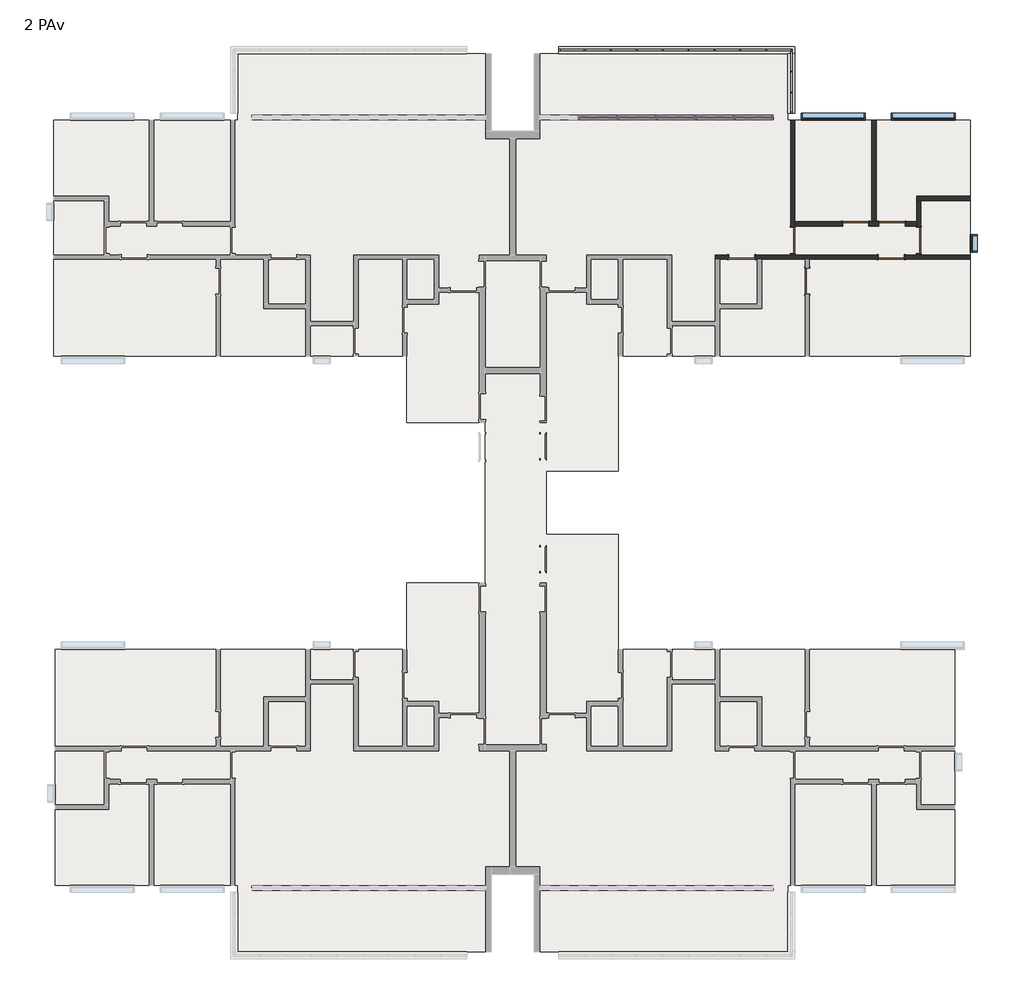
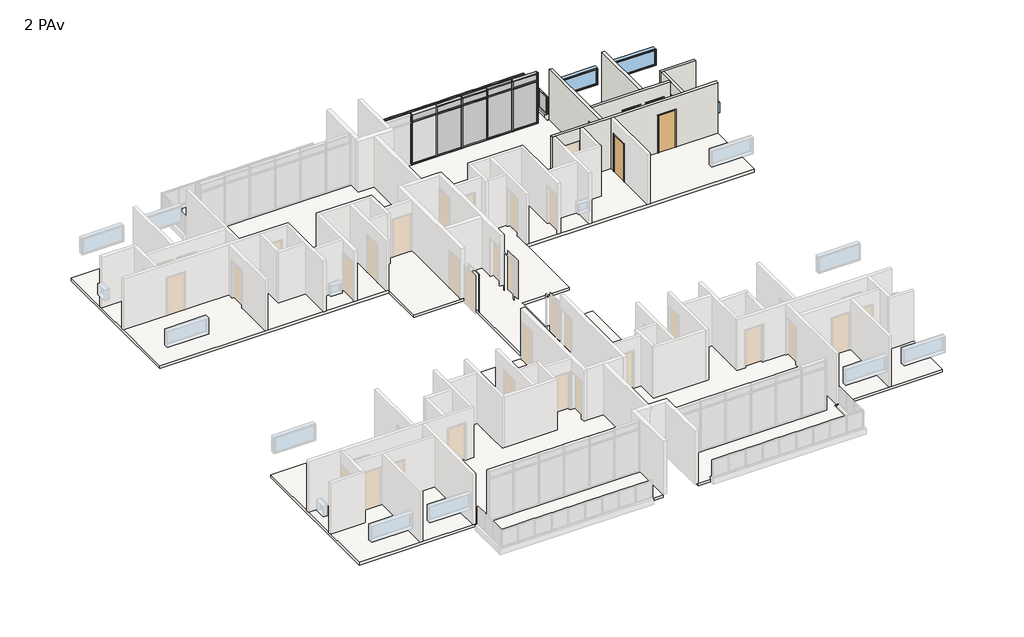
# One storey, part 6 of 6: 64 members, 21 plates, 8 walls, 6 doors, 3 windows, 1 slab.
"""IFC4 building model written with IfcOpenShell, lengths in millimetres."""

from ifc_helpers import new_model, si_unit, frame, origin, place, context, project, spatial, polyline, outline, extrude, faceted_brep, transform, mapped, element, save
from components import door_90_x_210_ee935524, door_90_x_210_565370b3, montante_retangular_50_mm_quadrado_84e40a56, montante_retangular_50_mm_quadrado_3d152aff, montante_retangular_50_mm_quadrado_a01005a4, montante_retangular_50_mm_quadrado_ddd80bd7, montante_retangular_50_mm_quadrado_4acded50, montante_retangular_50_mm_quadrado_237d7072, montante_retangular_50_x_150_mm_6217edde, montante_retangular_50_x_150_mm_a22249d7, montante_retangular_50_x_150_mm_6225e4e3, montante_retangular_50_x_150_mm_0a8c3443, montante_retangular_50_x_150_mm_567eccab, montante_retangular_50_x_150_mm_1ca2bba2, montante_retangular_50_x_150_mm_6abf4531, montante_retangular_50_x_150_mm_662c37b1, painel_do_sistema_0196877a, painel_do_sistema_2aa81470, painel_do_sistema_57ceaf50, painel_do_sistema_ab0ed719, painel_do_sistema_1ecb5f42, painel_do_sistema_49db1829, painel_do_sistema_5ea5287b, painel_do_sistema_7730abee, window_0610_x_0610_mm_b5667cc9, window_220_x_90_cea65aae

model = new_model("IFC4")

# Units and contexts
model_context = context("Model", 3, world=origin())
ifc_project = project(units=[si_unit("LENGTHUNIT", "METRE", prefix="MILLI")], contexts=[model_context])

# Site, building, storey
site = spatial("IfcSite", under=ifc_project)
building = spatial("IfcBuilding", under=site)
storey = spatial("IfcBuildingStorey", under=building, Name="2 PAv", Elevation=6000.0)

# Doors
placement = place(None, origin())
door_90_x_210_shape = door_90_x_210_ee935524(model_context)
element("IfcDoor", 1, ObjectType="M_Descarga simples : 90 x 210", at=placement, inside=storey, context=model_context, shape_type="MappedRepresentation", body=[
    mapped(door_90_x_210_shape, transform((9138.7734258, 8433.6614625, 6000.0), x_axis=(0.0, 1.0, 0.0), y_axis=(-1.0, 0.0, 0.0), z_axis=(0.0, 0.0, 1.0))),
])
element("IfcDoor", 2, ObjectType="M_Descarga simples : 90 x 210", at=placement, inside=storey, context=model_context, shape_type="MappedRepresentation", body=[
    mapped(door_90_x_210_shape, transform((8638.7734258, 9833.6614625, 6000.0), x_axis=(0.0, -1.0, 0.0), y_axis=(1.0, 0.0, 0.0), z_axis=(0.0, 0.0, 1.0))),
])
element("IfcDoor", 3, ObjectType="M_Descarga simples : 90 x 210", at=placement, inside=storey, context=model_context, shape_type="MappedRepresentation", body=[
    mapped(door_90_x_210_shape, transform((12988.7734258, 9833.6614625, 6000.0), x_axis=(0.0, -1.0, 0.0), y_axis=(1.0, 0.0, 0.0), z_axis=(0.0, 0.0, 1.0))),
])
element("IfcDoor", 4, ObjectType="M_Descarga simples : 90 x 210", at=placement, inside=storey, context=model_context, shape_type="MappedRepresentation", body=[
    mapped(door_90_x_210_shape, transform((10813.7734258, 10408.6614625, 6000.0), x_axis=(1.0, 0.0, 0.0), y_axis=(0.0, 1.0, 0.0), z_axis=(0.0, 0.0, 1.0))),
])
door_90_x_210_2_shape = door_90_x_210_565370b3(model_context)
element("IfcDoor", 5, ObjectType="M_Descarga simples : 90 x 210", at=placement, inside=storey, context=model_context, shape_type="MappedRepresentation", body=[
    mapped(door_90_x_210_2_shape, transform((12063.7734258, 10408.6614625, 6000.0), x_axis=(-1.0, 0.0, 0.0), y_axis=(0.0, -1.0, 0.0), z_axis=(0.0, 0.0, 1.0))),
])
element("IfcDoor", 6, ObjectType="M_Descarga simples : 90 x 210", at=placement, inside=storey, context=model_context, shape_type="MappedRepresentation", body=[
    mapped(door_90_x_210_2_shape, transform((12043.7734258, 9258.6614625, 6000.0), x_axis=(1.0, 0.0, 0.0), y_axis=(0.0, 1.0, 0.0), z_axis=(0.0, 0.0, 1.0))),
])

# Members
montante_retangular_50_mm_quadrado_shape = montante_retangular_50_mm_quadrado_84e40a56(model_context)
element("IfcMember", 7, ObjectType="Montante retangular : 50 mm Quadrado", at=placement, inside=storey, context=model_context, shape_type="MappedRepresentation", body=[
    mapped(montante_retangular_50_mm_quadrado_shape, transform((8588.7734258, 15663.6614625, 6150.0), x_axis=(0.0, -1.0, 0.0), y_axis=(-1.0, 0.0, 0.0), z_axis=(0.0, 0.0, -1.0))),
])
element("IfcMember", 8, ObjectType="Montante retangular : 50 mm Quadrado", at=placement, inside=storey, context=model_context, shape_type="MappedRepresentation", body=[
    mapped(montante_retangular_50_mm_quadrado_shape, transform((8588.7734258, 14948.6614625, 6150.0), x_axis=(0.0, -1.0, 0.0), y_axis=(-1.0, 0.0, 0.0), z_axis=(0.0, 0.0, -1.0))),
])
element("IfcMember", 9, ObjectType="Montante retangular : 50 mm Quadrado", at=placement, inside=storey, context=model_context, shape_type="MappedRepresentation", body=[
    mapped(montante_retangular_50_mm_quadrado_shape, transform((1453.7734258, 16403.6614625, 6150.0), x_axis=(1.0, 0.0, 0.0), y_axis=(0.0, -1.0, 0.0), z_axis=(0.0, 0.0, -1.0))),
])
element("IfcMember", 10, ObjectType="Montante retangular : 50 mm Quadrado", at=placement, inside=storey, context=model_context, shape_type="MappedRepresentation", body=[
    mapped(montante_retangular_50_mm_quadrado_shape, transform((2348.7734258, 16403.6614625, 6150.0), x_axis=(1.0, 0.0, 0.0), y_axis=(0.0, -1.0, 0.0), z_axis=(0.0, 0.0, -1.0))),
])
element("IfcMember", 11, ObjectType="Montante retangular : 50 mm Quadrado", at=placement, inside=storey, context=model_context, shape_type="MappedRepresentation", body=[
    mapped(montante_retangular_50_mm_quadrado_shape, transform((3243.7734258, 16403.6614625, 6150.0), x_axis=(1.0, 0.0, 0.0), y_axis=(0.0, -1.0, 0.0), z_axis=(0.0, 0.0, -1.0))),
])
element("IfcMember", 12, ObjectType="Montante retangular : 50 mm Quadrado", at=placement, inside=storey, context=model_context, shape_type="MappedRepresentation", body=[
    mapped(montante_retangular_50_mm_quadrado_shape, transform((4138.7734258, 16403.6614625, 6150.0), x_axis=(1.0, 0.0, 0.0), y_axis=(0.0, -1.0, 0.0), z_axis=(0.0, 0.0, -1.0))),
])
element("IfcMember", 13, ObjectType="Montante retangular : 50 mm Quadrado", at=placement, inside=storey, context=model_context, shape_type="MappedRepresentation", body=[
    mapped(montante_retangular_50_mm_quadrado_shape, transform((5033.7734258, 16403.6614625, 6150.0), x_axis=(1.0, 0.0, 0.0), y_axis=(0.0, -1.0, 0.0), z_axis=(0.0, 0.0, -1.0))),
])
element("IfcMember", 14, ObjectType="Montante retangular : 50 mm Quadrado", at=placement, inside=storey, context=model_context, shape_type="MappedRepresentation", body=[
    mapped(montante_retangular_50_mm_quadrado_shape, transform((5928.7734258, 16403.6614625, 6150.0), x_axis=(1.0, 0.0, 0.0), y_axis=(0.0, -1.0, 0.0), z_axis=(0.0, 0.0, -1.0))),
])
element("IfcMember", 15, ObjectType="Montante retangular : 50 mm Quadrado", at=placement, inside=storey, context=model_context, shape_type="MappedRepresentation", body=[
    mapped(montante_retangular_50_mm_quadrado_shape, transform((6823.7734258, 16403.6614625, 6150.0), x_axis=(1.0, 0.0, 0.0), y_axis=(0.0, -1.0, 0.0), z_axis=(0.0, 0.0, -1.0))),
])
element("IfcMember", 16, ObjectType="Montante retangular : 50 mm Quadrado", at=placement, inside=storey, context=model_context, shape_type="MappedRepresentation", body=[
    mapped(montante_retangular_50_mm_quadrado_shape, transform((7718.7734258, 16403.6614625, 6150.0), x_axis=(1.0, 0.0, 0.0), y_axis=(0.0, -1.0, 0.0), z_axis=(0.0, 0.0, -1.0))),
])
montante_retangular_50_mm_quadrado_2_shape = montante_retangular_50_mm_quadrado_3d152aff(model_context)
element("IfcMember", 17, ObjectType="Montante retangular : 50 mm Quadrado", at=placement, inside=storey, context=model_context, shape_type="MappedRepresentation", body=[
    mapped(montante_retangular_50_mm_quadrado_2_shape, transform((8588.7734258, 14233.6614625, 6150.0), x_axis=(0.0, -1.0, 0.0), y_axis=(-1.0, 0.0, 0.0), z_axis=(0.0, 0.0, -1.0))),
])
element("IfcMember", 18, ObjectType="Montante retangular : 50 mm Quadrado", at=placement, inside=storey, context=model_context, shape_type="MappedRepresentation", body=[
    mapped(montante_retangular_50_mm_quadrado_2_shape, transform((8613.7734258, 16403.6614625, 6150.0), x_axis=(1.0, 0.0, 0.0), y_axis=(0.0, -1.0, 0.0), z_axis=(0.0, 0.0, -1.0))),
])
element("IfcMember", 19, ObjectType="Montante retangular : 50 mm Quadrado", at=placement, inside=storey, context=model_context, shape_type="MappedRepresentation", body=[
    mapped(montante_retangular_50_mm_quadrado_2_shape, transform((8588.7734258, 16378.6614625, 7150.0), x_axis=(0.0, 1.0, 0.0), y_axis=(-1.0, 0.0, 0.0), z_axis=(0.0, 0.0, 1.0))),
])
element("IfcMember", 20, ObjectType="Montante retangular : 50 mm Quadrado", at=placement, inside=storey, context=model_context, shape_type="MappedRepresentation", body=[
    mapped(montante_retangular_50_mm_quadrado_2_shape, transform((558.7734258, 16403.6614625, 7150.0), x_axis=(-1.0, 0.0, 0.0), y_axis=(0.0, -1.0, 0.0), z_axis=(0.0, 0.0, 1.0))),
])
montante_retangular_50_mm_quadrado_3_shape = montante_retangular_50_mm_quadrado_a01005a4(model_context)
element("IfcMember", 21, ObjectType="Montante retangular : 50 mm Quadrado", at=placement, inside=storey, context=model_context, shape_type="MappedRepresentation", body=[
    mapped(montante_retangular_50_mm_quadrado_3_shape, transform((8588.7734258, 14283.6614625, 7150.0), x_axis=(0.0, 0.0, 1.0), y_axis=(-1.0, 0.0, 0.0), z_axis=(0.0, -1.0, 0.0))),
])
element("IfcMember", 22, ObjectType="Montante retangular : 50 mm Quadrado", at=placement, inside=storey, context=model_context, shape_type="MappedRepresentation", body=[
    mapped(montante_retangular_50_mm_quadrado_3_shape, transform((8588.7734258, 15688.6614625, 7150.0), x_axis=(0.0, 0.0, 1.0), y_axis=(-1.0, 0.0, 0.0), z_axis=(0.0, -1.0, 0.0))),
])
montante_retangular_50_mm_quadrado_4_shape = montante_retangular_50_mm_quadrado_ddd80bd7(model_context)
element("IfcMember", 23, ObjectType="Montante retangular : 50 mm Quadrado", at=placement, inside=storey, context=model_context, shape_type="MappedRepresentation", body=[
    mapped(montante_retangular_50_mm_quadrado_4_shape, transform((8588.7734258, 14973.6614625, 7150.0), x_axis=(0.0, 0.0, 1.0), y_axis=(-1.0, 0.0, 0.0), z_axis=(0.0, -1.0, 0.0))),
])
element("IfcMember", 24, ObjectType="Montante retangular : 50 mm Quadrado", at=placement, inside=storey, context=model_context, shape_type="MappedRepresentation", body=[
    mapped(montante_retangular_50_mm_quadrado_3_shape, transform((8588.7734258, 16328.6614625, 6150.0), x_axis=(0.0, 0.0, -1.0), y_axis=(-1.0, 0.0, 0.0), z_axis=(0.0, 1.0, 0.0))),
])
element("IfcMember", 25, ObjectType="Montante retangular : 50 mm Quadrado", at=placement, inside=storey, context=model_context, shape_type="MappedRepresentation", body=[
    mapped(montante_retangular_50_mm_quadrado_3_shape, transform((8588.7734258, 14923.6614625, 6150.0), x_axis=(0.0, 0.0, -1.0), y_axis=(-1.0, 0.0, 0.0), z_axis=(0.0, 1.0, 0.0))),
])
element("IfcMember", 26, ObjectType="Montante retangular : 50 mm Quadrado", at=placement, inside=storey, context=model_context, shape_type="MappedRepresentation", body=[
    mapped(montante_retangular_50_mm_quadrado_4_shape, transform((8588.7734258, 15638.6614625, 6150.0), x_axis=(0.0, 0.0, -1.0), y_axis=(-1.0, 0.0, 0.0), z_axis=(0.0, 1.0, 0.0))),
])
montante_retangular_50_mm_quadrado_5_shape = montante_retangular_50_mm_quadrado_4acded50(model_context)
element("IfcMember", 27, ObjectType="Montante retangular : 50 mm Quadrado", at=placement, inside=storey, context=model_context, shape_type="MappedRepresentation", body=[
    mapped(montante_retangular_50_mm_quadrado_5_shape, transform((8563.7734258, 16403.6614625, 7150.0), x_axis=(0.0, 0.0, 1.0), y_axis=(0.0, -1.0, 0.0), z_axis=(1.0, 0.0, 0.0))),
])
element("IfcMember", 28, ObjectType="Montante retangular : 50 mm Quadrado", at=placement, inside=storey, context=model_context, shape_type="MappedRepresentation", body=[
    mapped(montante_retangular_50_mm_quadrado_5_shape, transform((1428.7734258, 16403.6614625, 7150.0), x_axis=(0.0, 0.0, 1.0), y_axis=(0.0, -1.0, 0.0), z_axis=(1.0, 0.0, 0.0))),
])
montante_retangular_50_mm_quadrado_6_shape = montante_retangular_50_mm_quadrado_237d7072(model_context)
element("IfcMember", 29, ObjectType="Montante retangular : 50 mm Quadrado", at=placement, inside=storey, context=model_context, shape_type="MappedRepresentation", body=[
    mapped(montante_retangular_50_mm_quadrado_6_shape, transform((2323.7734258, 16403.6614625, 7150.0), x_axis=(0.0, 0.0, 1.0), y_axis=(0.0, -1.0, 0.0), z_axis=(1.0, 0.0, 0.0))),
])
element("IfcMember", 30, ObjectType="Montante retangular : 50 mm Quadrado", at=placement, inside=storey, context=model_context, shape_type="MappedRepresentation", body=[
    mapped(montante_retangular_50_mm_quadrado_6_shape, transform((3218.7734258, 16403.6614625, 7150.0), x_axis=(0.0, 0.0, 1.0), y_axis=(0.0, -1.0, 0.0), z_axis=(1.0, 0.0, 0.0))),
])
element("IfcMember", 31, ObjectType="Montante retangular : 50 mm Quadrado", at=placement, inside=storey, context=model_context, shape_type="MappedRepresentation", body=[
    mapped(montante_retangular_50_mm_quadrado_6_shape, transform((4113.7734258, 16403.6614625, 7150.0), x_axis=(0.0, 0.0, 1.0), y_axis=(0.0, -1.0, 0.0), z_axis=(1.0, 0.0, 0.0))),
])
element("IfcMember", 32, ObjectType="Montante retangular : 50 mm Quadrado", at=placement, inside=storey, context=model_context, shape_type="MappedRepresentation", body=[
    mapped(montante_retangular_50_mm_quadrado_6_shape, transform((5008.7734258, 16403.6614625, 7150.0), x_axis=(0.0, 0.0, 1.0), y_axis=(0.0, -1.0, 0.0), z_axis=(1.0, 0.0, 0.0))),
])
element("IfcMember", 33, ObjectType="Montante retangular : 50 mm Quadrado", at=placement, inside=storey, context=model_context, shape_type="MappedRepresentation", body=[
    mapped(montante_retangular_50_mm_quadrado_6_shape, transform((5903.7734258, 16403.6614625, 7150.0), x_axis=(0.0, 0.0, 1.0), y_axis=(0.0, -1.0, 0.0), z_axis=(1.0, 0.0, 0.0))),
])
element("IfcMember", 34, ObjectType="Montante retangular : 50 mm Quadrado", at=placement, inside=storey, context=model_context, shape_type="MappedRepresentation", body=[
    mapped(montante_retangular_50_mm_quadrado_6_shape, transform((6798.7734258, 16403.6614625, 7150.0), x_axis=(0.0, 0.0, 1.0), y_axis=(0.0, -1.0, 0.0), z_axis=(1.0, 0.0, 0.0))),
])
element("IfcMember", 35, ObjectType="Montante retangular : 50 mm Quadrado", at=placement, inside=storey, context=model_context, shape_type="MappedRepresentation", body=[
    mapped(montante_retangular_50_mm_quadrado_6_shape, transform((7693.7734258, 16403.6614625, 7150.0), x_axis=(0.0, 0.0, 1.0), y_axis=(0.0, -1.0, 0.0), z_axis=(1.0, 0.0, 0.0))),
])
element("IfcMember", 36, ObjectType="Montante retangular : 50 mm Quadrado", at=placement, inside=storey, context=model_context, shape_type="MappedRepresentation", body=[
    mapped(montante_retangular_50_mm_quadrado_5_shape, transform((608.7734258, 16403.6614625, 6150.0), x_axis=(0.0, 0.0, -1.0), y_axis=(0.0, -1.0, 0.0), z_axis=(-1.0, 0.0, 0.0))),
])
element("IfcMember", 37, ObjectType="Montante retangular : 50 mm Quadrado", at=placement, inside=storey, context=model_context, shape_type="MappedRepresentation", body=[
    mapped(montante_retangular_50_mm_quadrado_5_shape, transform((7743.7734258, 16403.6614625, 6150.0), x_axis=(0.0, 0.0, -1.0), y_axis=(0.0, -1.0, 0.0), z_axis=(-1.0, 0.0, 0.0))),
])
element("IfcMember", 38, ObjectType="Montante retangular : 50 mm Quadrado", at=placement, inside=storey, context=model_context, shape_type="MappedRepresentation", body=[
    mapped(montante_retangular_50_mm_quadrado_6_shape, transform((1478.7734258, 16403.6614625, 6150.0), x_axis=(0.0, 0.0, -1.0), y_axis=(0.0, -1.0, 0.0), z_axis=(-1.0, 0.0, 0.0))),
])
element("IfcMember", 39, ObjectType="Montante retangular : 50 mm Quadrado", at=placement, inside=storey, context=model_context, shape_type="MappedRepresentation", body=[
    mapped(montante_retangular_50_mm_quadrado_6_shape, transform((2373.7734258, 16403.6614625, 6150.0), x_axis=(0.0, 0.0, -1.0), y_axis=(0.0, -1.0, 0.0), z_axis=(-1.0, 0.0, 0.0))),
])
element("IfcMember", 40, ObjectType="Montante retangular : 50 mm Quadrado", at=placement, inside=storey, context=model_context, shape_type="MappedRepresentation", body=[
    mapped(montante_retangular_50_mm_quadrado_6_shape, transform((3268.7734258, 16403.6614625, 6150.0), x_axis=(0.0, 0.0, -1.0), y_axis=(0.0, -1.0, 0.0), z_axis=(-1.0, 0.0, 0.0))),
])
element("IfcMember", 41, ObjectType="Montante retangular : 50 mm Quadrado", at=placement, inside=storey, context=model_context, shape_type="MappedRepresentation", body=[
    mapped(montante_retangular_50_mm_quadrado_6_shape, transform((4163.7734258, 16403.6614625, 6150.0), x_axis=(0.0, 0.0, -1.0), y_axis=(0.0, -1.0, 0.0), z_axis=(-1.0, 0.0, 0.0))),
])
element("IfcMember", 42, ObjectType="Montante retangular : 50 mm Quadrado", at=placement, inside=storey, context=model_context, shape_type="MappedRepresentation", body=[
    mapped(montante_retangular_50_mm_quadrado_6_shape, transform((5058.7734258, 16403.6614625, 6150.0), x_axis=(0.0, 0.0, -1.0), y_axis=(0.0, -1.0, 0.0), z_axis=(-1.0, 0.0, 0.0))),
])
element("IfcMember", 43, ObjectType="Montante retangular : 50 mm Quadrado", at=placement, inside=storey, context=model_context, shape_type="MappedRepresentation", body=[
    mapped(montante_retangular_50_mm_quadrado_6_shape, transform((5953.7734258, 16403.6614625, 6150.0), x_axis=(0.0, 0.0, -1.0), y_axis=(0.0, -1.0, 0.0), z_axis=(-1.0, 0.0, 0.0))),
])
element("IfcMember", 44, ObjectType="Montante retangular : 50 mm Quadrado", at=placement, inside=storey, context=model_context, shape_type="MappedRepresentation", body=[
    mapped(montante_retangular_50_mm_quadrado_6_shape, transform((6848.7734258, 16403.6614625, 6150.0), x_axis=(0.0, 0.0, -1.0), y_axis=(0.0, -1.0, 0.0), z_axis=(-1.0, 0.0, 0.0))),
])
montante_retangular_50_x_150_mm_shape = montante_retangular_50_x_150_mm_6217edde(model_context)
element("IfcMember", 45, ObjectType="Montante retangular : 50 x 150 mm", at=placement, inside=storey, context=model_context, shape_type="MappedRepresentation", body=[
    mapped(montante_retangular_50_x_150_mm_shape, transform((6654.6067592, 14083.6614625, 8850.0), x_axis=(0.0, 0.0, 1.0), y_axis=(0.0, 1.0, 0.0), z_axis=(-1.0, 0.0, 0.0))),
])
montante_retangular_50_x_150_mm_2_shape = montante_retangular_50_x_150_mm_a22249d7(model_context)
element("IfcMember", 46, ObjectType="Montante retangular : 50 x 150 mm", at=placement, inside=storey, context=model_context, shape_type="MappedRepresentation", body=[
    mapped(montante_retangular_50_x_150_mm_2_shape, transform((5310.4400925, 14083.6614625, 8850.0), x_axis=(0.0, 0.0, 1.0), y_axis=(0.0, 1.0, 0.0), z_axis=(-1.0, 0.0, 0.0))),
])
element("IfcMember", 47, ObjectType="Montante retangular : 50 x 150 mm", at=placement, inside=storey, context=model_context, shape_type="MappedRepresentation", body=[
    mapped(montante_retangular_50_x_150_mm_2_shape, transform((3966.2734258, 14083.6614625, 8850.0), x_axis=(0.0, 0.0, 1.0), y_axis=(0.0, 1.0, 0.0), z_axis=(-1.0, 0.0, 0.0))),
])
element("IfcMember", 48, ObjectType="Montante retangular : 50 x 150 mm", at=placement, inside=storey, context=model_context, shape_type="MappedRepresentation", body=[
    mapped(montante_retangular_50_x_150_mm_2_shape, transform((2622.1067592, 14083.6614625, 8850.0), x_axis=(0.0, 0.0, 1.0), y_axis=(0.0, 1.0, 0.0), z_axis=(-1.0, 0.0, 0.0))),
])
element("IfcMember", 49, ObjectType="Montante retangular : 50 x 150 mm", at=placement, inside=storey, context=model_context, shape_type="MappedRepresentation", body=[
    mapped(montante_retangular_50_x_150_mm_shape, transform((7923.7734258, 14083.6614625, 6000.0), x_axis=(0.0, 0.0, -1.0), y_axis=(0.0, 1.0, 0.0), z_axis=(1.0, 0.0, 0.0))),
])
element("IfcMember", 50, ObjectType="Montante retangular : 50 x 150 mm", at=placement, inside=storey, context=model_context, shape_type="MappedRepresentation", body=[
    mapped(montante_retangular_50_x_150_mm_2_shape, transform((6604.6067592, 14083.6614625, 6000.0), x_axis=(0.0, 0.0, -1.0), y_axis=(0.0, 1.0, 0.0), z_axis=(1.0, 0.0, 0.0))),
])
element("IfcMember", 51, ObjectType="Montante retangular : 50 x 150 mm", at=placement, inside=storey, context=model_context, shape_type="MappedRepresentation", body=[
    mapped(montante_retangular_50_x_150_mm_2_shape, transform((5260.4400925, 14083.6614625, 6000.0), x_axis=(0.0, 0.0, -1.0), y_axis=(0.0, 1.0, 0.0), z_axis=(1.0, 0.0, 0.0))),
])
element("IfcMember", 52, ObjectType="Montante retangular : 50 x 150 mm", at=placement, inside=storey, context=model_context, shape_type="MappedRepresentation", body=[
    mapped(montante_retangular_50_x_150_mm_2_shape, transform((3916.2734258, 14083.6614625, 6000.0), x_axis=(0.0, 0.0, -1.0), y_axis=(0.0, 1.0, 0.0), z_axis=(1.0, 0.0, 0.0))),
])
element("IfcMember", 53, ObjectType="Montante retangular : 50 x 150 mm", at=placement, inside=storey, context=model_context, shape_type="MappedRepresentation", body=[
    mapped(montante_retangular_50_x_150_mm_2_shape, transform((2572.1067592, 14083.6614625, 6000.0), x_axis=(0.0, 0.0, -1.0), y_axis=(0.0, 1.0, 0.0), z_axis=(1.0, 0.0, 0.0))),
])
montante_retangular_50_x_150_mm_3_shape = montante_retangular_50_x_150_mm_6225e4e3(model_context)
element("IfcMember", 54, ObjectType="Montante retangular : 50 x 150 mm", at=placement, inside=storey, context=model_context, shape_type="MappedRepresentation", body=[
    mapped(montante_retangular_50_x_150_mm_3_shape, transform((6629.6067592, 14083.6614625, 6000.0), x_axis=(-1.0, 0.0, 0.0), y_axis=(0.0, 1.0, 0.0), z_axis=(0.0, 0.0, -1.0))),
])
element("IfcMember", 55, ObjectType="Montante retangular : 50 x 150 mm", at=placement, inside=storey, context=model_context, shape_type="MappedRepresentation", body=[
    mapped(montante_retangular_50_x_150_mm_3_shape, transform((5285.4400925, 14083.6614625, 6000.0), x_axis=(-1.0, 0.0, 0.0), y_axis=(0.0, 1.0, 0.0), z_axis=(0.0, 0.0, -1.0))),
])
element("IfcMember", 56, ObjectType="Montante retangular : 50 x 150 mm", at=placement, inside=storey, context=model_context, shape_type="MappedRepresentation", body=[
    mapped(montante_retangular_50_x_150_mm_3_shape, transform((3941.2734258, 14083.6614625, 6000.0), x_axis=(-1.0, 0.0, 0.0), y_axis=(0.0, 1.0, 0.0), z_axis=(0.0, 0.0, -1.0))),
])
element("IfcMember", 57, ObjectType="Montante retangular : 50 x 150 mm", at=placement, inside=storey, context=model_context, shape_type="MappedRepresentation", body=[
    mapped(montante_retangular_50_x_150_mm_3_shape, transform((2597.1067592, 14083.6614625, 6000.0), x_axis=(-1.0, 0.0, 0.0), y_axis=(0.0, 1.0, 0.0), z_axis=(0.0, 0.0, -1.0))),
])
element("IfcMember", 58, ObjectType="Montante retangular : 50 x 150 mm", at=placement, inside=storey, context=model_context, shape_type="MappedRepresentation", body=[
    mapped(montante_retangular_50_x_150_mm_3_shape, transform((1252.9400925, 14083.6614625, 6000.0), x_axis=(-1.0, 0.0, 0.0), y_axis=(0.0, 1.0, 0.0), z_axis=(0.0, 0.0, -1.0))),
])
montante_retangular_50_x_150_mm_4_shape = montante_retangular_50_x_150_mm_0a8c3443(model_context)
element("IfcMember", 59, ObjectType="Montante retangular : 50 x 150 mm", at=placement, inside=storey, context=model_context, shape_type="MappedRepresentation", body=[
    mapped(montante_retangular_50_x_150_mm_4_shape, transform((7973.7734258, 14083.6614625, 8850.0), x_axis=(1.0, 0.0, 0.0), y_axis=(0.0, 1.0, 0.0), z_axis=(0.0, 0.0, 1.0))),
])
montante_retangular_50_x_150_mm_5_shape = montante_retangular_50_x_150_mm_567eccab(model_context)
element("IfcMember", 60, ObjectType="Montante retangular : 50 x 150 mm", at=placement, inside=storey, context=model_context, shape_type="MappedRepresentation", body=[
    mapped(montante_retangular_50_x_150_mm_5_shape, transform((6629.6067592, 14083.6614625, 8400.0), x_axis=(-1.0, 0.0, 0.0), y_axis=(0.0, 1.0, 0.0), z_axis=(0.0, 0.0, -1.0))),
])
element("IfcMember", 61, ObjectType="Montante retangular : 50 x 150 mm", at=placement, inside=storey, context=model_context, shape_type="MappedRepresentation", body=[
    mapped(montante_retangular_50_x_150_mm_5_shape, transform((5285.4400925, 14083.6614625, 8400.0), x_axis=(-1.0, 0.0, 0.0), y_axis=(0.0, 1.0, 0.0), z_axis=(0.0, 0.0, -1.0))),
])
element("IfcMember", 62, ObjectType="Montante retangular : 50 x 150 mm", at=placement, inside=storey, context=model_context, shape_type="MappedRepresentation", body=[
    mapped(montante_retangular_50_x_150_mm_5_shape, transform((3941.2734258, 14083.6614625, 8400.0), x_axis=(-1.0, 0.0, 0.0), y_axis=(0.0, 1.0, 0.0), z_axis=(0.0, 0.0, -1.0))),
])
element("IfcMember", 63, ObjectType="Montante retangular : 50 x 150 mm", at=placement, inside=storey, context=model_context, shape_type="MappedRepresentation", body=[
    mapped(montante_retangular_50_x_150_mm_5_shape, transform((2597.1067592, 14083.6614625, 8400.0), x_axis=(-1.0, 0.0, 0.0), y_axis=(0.0, 1.0, 0.0), z_axis=(0.0, 0.0, -1.0))),
])
element("IfcMember", 64, ObjectType="Montante retangular : 50 x 150 mm", at=placement, inside=storey, context=model_context, shape_type="MappedRepresentation", body=[
    mapped(montante_retangular_50_x_150_mm_5_shape, transform((1252.9400925, 14083.6614625, 8400.0), x_axis=(-1.0, 0.0, 0.0), y_axis=(0.0, 1.0, 0.0), z_axis=(0.0, 0.0, -1.0))),
])
montante_retangular_50_x_150_mm_6_shape = montante_retangular_50_x_150_mm_1ca2bba2(model_context)
element("IfcMember", 65, ObjectType="Montante retangular : 50 x 150 mm", at=placement, inside=storey, context=model_context, shape_type="MappedRepresentation", body=[
    mapped(montante_retangular_50_x_150_mm_6_shape, transform((6654.6067592, 14083.6614625, 8400.0), x_axis=(0.0, 0.0, 1.0), y_axis=(0.0, 1.0, 0.0), z_axis=(-1.0, 0.0, 0.0))),
])
montante_retangular_50_x_150_mm_7_shape = montante_retangular_50_x_150_mm_6abf4531(model_context)
element("IfcMember", 66, ObjectType="Montante retangular : 50 x 150 mm", at=placement, inside=storey, context=model_context, shape_type="MappedRepresentation", body=[
    mapped(montante_retangular_50_x_150_mm_7_shape, transform((5310.4400925, 14083.6614625, 8400.0), x_axis=(0.0, 0.0, 1.0), y_axis=(0.0, 1.0, 0.0), z_axis=(-1.0, 0.0, 0.0))),
])
element("IfcMember", 67, ObjectType="Montante retangular : 50 x 150 mm", at=placement, inside=storey, context=model_context, shape_type="MappedRepresentation", body=[
    mapped(montante_retangular_50_x_150_mm_7_shape, transform((3966.2734258, 14083.6614625, 8400.0), x_axis=(0.0, 0.0, 1.0), y_axis=(0.0, 1.0, 0.0), z_axis=(-1.0, 0.0, 0.0))),
])
element("IfcMember", 68, ObjectType="Montante retangular : 50 x 150 mm", at=placement, inside=storey, context=model_context, shape_type="MappedRepresentation", body=[
    mapped(montante_retangular_50_x_150_mm_7_shape, transform((2622.1067592, 14083.6614625, 8400.0), x_axis=(0.0, 0.0, 1.0), y_axis=(0.0, 1.0, 0.0), z_axis=(-1.0, 0.0, 0.0))),
])
element("IfcMember", 69, ObjectType="Montante retangular : 50 x 150 mm", at=placement, inside=storey, context=model_context, shape_type="MappedRepresentation", body=[
    mapped(montante_retangular_50_x_150_mm_7_shape, transform((1277.9400925, 14083.6614625, 8400.0), x_axis=(0.0, 0.0, 1.0), y_axis=(0.0, 1.0, 0.0), z_axis=(-1.0, 0.0, 0.0))),
])
montante_retangular_50_x_150_mm_8_shape = montante_retangular_50_x_150_mm_662c37b1(model_context)
element("IfcMember", 70, ObjectType="Montante retangular : 50 x 150 mm", at=placement, inside=storey, context=model_context, shape_type="MappedRepresentation", body=[
    mapped(montante_retangular_50_x_150_mm_8_shape, transform((7973.7734258, 14083.6614625, 8400.0), x_axis=(1.0, 0.0, 0.0), y_axis=(0.0, 1.0, 0.0), z_axis=(0.0, 0.0, 1.0))),
])

# Plates
painel_do_sistema_shape = painel_do_sistema_0196877a(model_context)
element("IfcPlate", 71, ObjectType="Painel do sistema : Envidraçado", at=placement, inside=storey, context=model_context, shape_type="MappedRepresentation", body=[
    mapped(painel_do_sistema_shape, transform((8588.7734258, 16008.6614625, 6200.0), x_axis=(0.0, -1.0, 0.0), y_axis=(1.0, 0.0, 0.0), z_axis=(0.0, 0.0, 1.0))),
])
element("IfcPlate", 72, ObjectType="Painel do sistema : Envidraçado", at=placement, inside=storey, context=model_context, shape_type="MappedRepresentation", body=[
    mapped(painel_do_sistema_shape, transform((8588.7734258, 14603.6614625, 6200.0), x_axis=(0.0, -1.0, 0.0), y_axis=(1.0, 0.0, 0.0), z_axis=(0.0, 0.0, 1.0))),
])
painel_do_sistema_2_shape = painel_do_sistema_2aa81470(model_context)
element("IfcPlate", 73, ObjectType="Painel do sistema : Envidraçado", at=placement, inside=storey, context=model_context, shape_type="MappedRepresentation", body=[
    mapped(painel_do_sistema_2_shape, transform((8588.7734258, 15306.1614625, 6200.0), x_axis=(0.0, -1.0, 0.0), y_axis=(1.0, 0.0, 0.0), z_axis=(0.0, 0.0, 1.0))),
])
painel_do_sistema_3_shape = painel_do_sistema_57ceaf50(model_context)
element("IfcPlate", 74, ObjectType="Painel do sistema : Envidraçado", at=placement, inside=storey, context=model_context, shape_type="MappedRepresentation", body=[
    mapped(painel_do_sistema_3_shape, transform((1018.7734258, 16403.6614625, 6200.0), x_axis=(1.0, 0.0, 0.0), y_axis=(0.0, 1.0, 0.0), z_axis=(0.0, 0.0, 1.0))),
])
element("IfcPlate", 75, ObjectType="Painel do sistema : Envidraçado", at=placement, inside=storey, context=model_context, shape_type="MappedRepresentation", body=[
    mapped(painel_do_sistema_3_shape, transform((8153.7734258, 16403.6614625, 6200.0), x_axis=(1.0, 0.0, 0.0), y_axis=(0.0, 1.0, 0.0), z_axis=(0.0, 0.0, 1.0))),
])
painel_do_sistema_4_shape = painel_do_sistema_ab0ed719(model_context)
element("IfcPlate", 76, ObjectType="Painel do sistema : Envidraçado", at=placement, inside=storey, context=model_context, shape_type="MappedRepresentation", body=[
    mapped(painel_do_sistema_4_shape, transform((1901.2734258, 16403.6614625, 6200.0), x_axis=(1.0, 0.0, 0.0), y_axis=(0.0, 1.0, 0.0), z_axis=(0.0, 0.0, 1.0))),
])
element("IfcPlate", 77, ObjectType="Painel do sistema : Envidraçado", at=placement, inside=storey, context=model_context, shape_type="MappedRepresentation", body=[
    mapped(painel_do_sistema_4_shape, transform((2796.2734258, 16403.6614625, 6200.0), x_axis=(1.0, 0.0, 0.0), y_axis=(0.0, 1.0, 0.0), z_axis=(0.0, 0.0, 1.0))),
])
element("IfcPlate", 78, ObjectType="Painel do sistema : Envidraçado", at=placement, inside=storey, context=model_context, shape_type="MappedRepresentation", body=[
    mapped(painel_do_sistema_4_shape, transform((3691.2734258, 16403.6614625, 6200.0), x_axis=(1.0, 0.0, 0.0), y_axis=(0.0, 1.0, 0.0), z_axis=(0.0, 0.0, 1.0))),
])
element("IfcPlate", 79, ObjectType="Painel do sistema : Envidraçado", at=placement, inside=storey, context=model_context, shape_type="MappedRepresentation", body=[
    mapped(painel_do_sistema_4_shape, transform((4586.2734258, 16403.6614625, 6200.0), x_axis=(1.0, 0.0, 0.0), y_axis=(0.0, 1.0, 0.0), z_axis=(0.0, 0.0, 1.0))),
])
element("IfcPlate", 80, ObjectType="Painel do sistema : Envidraçado", at=placement, inside=storey, context=model_context, shape_type="MappedRepresentation", body=[
    mapped(painel_do_sistema_4_shape, transform((5481.2734258, 16403.6614625, 6200.0), x_axis=(1.0, 0.0, 0.0), y_axis=(0.0, 1.0, 0.0), z_axis=(0.0, 0.0, 1.0))),
])
element("IfcPlate", 81, ObjectType="Painel do sistema : Envidraçado", at=placement, inside=storey, context=model_context, shape_type="MappedRepresentation", body=[
    mapped(painel_do_sistema_4_shape, transform((6376.2734258, 16403.6614625, 6200.0), x_axis=(1.0, 0.0, 0.0), y_axis=(0.0, 1.0, 0.0), z_axis=(0.0, 0.0, 1.0))),
])
element("IfcPlate", 82, ObjectType="Painel do sistema : Envidraçado", at=placement, inside=storey, context=model_context, shape_type="MappedRepresentation", body=[
    mapped(painel_do_sistema_4_shape, transform((7271.2734258, 16403.6614625, 6200.0), x_axis=(1.0, 0.0, 0.0), y_axis=(0.0, 1.0, 0.0), z_axis=(0.0, 0.0, 1.0))),
])
painel_do_sistema_5_shape = painel_do_sistema_1ecb5f42(model_context)
element("IfcPlate", 83, ObjectType="Painel do sistema : Envidraçado", at=placement, inside=storey, context=model_context, shape_type="MappedRepresentation", body=[
    mapped(painel_do_sistema_5_shape, transform((7289.1900925, 14083.6614625, 6050.0), x_axis=(-1.0, 0.0, 0.0), y_axis=(0.0, -1.0, 0.0), z_axis=(0.0, 0.0, 1.0))),
])
painel_do_sistema_6_shape = painel_do_sistema_49db1829(model_context)
element("IfcPlate", 84, ObjectType="Painel do sistema : Envidraçado", at=placement, inside=storey, context=model_context, shape_type="MappedRepresentation", body=[
    mapped(painel_do_sistema_6_shape, transform((5957.5234258, 14083.6614625, 6050.0), x_axis=(-1.0, 0.0, 0.0), y_axis=(0.0, -1.0, 0.0), z_axis=(0.0, 0.0, 1.0))),
])
element("IfcPlate", 85, ObjectType="Painel do sistema : Envidraçado", at=placement, inside=storey, context=model_context, shape_type="MappedRepresentation", body=[
    mapped(painel_do_sistema_6_shape, transform((4613.3567592, 14083.6614625, 6050.0), x_axis=(-1.0, 0.0, 0.0), y_axis=(0.0, -1.0, 0.0), z_axis=(0.0, 0.0, 1.0))),
])
element("IfcPlate", 86, ObjectType="Painel do sistema : Envidraçado", at=placement, inside=storey, context=model_context, shape_type="MappedRepresentation", body=[
    mapped(painel_do_sistema_6_shape, transform((3269.1900925, 14083.6614625, 6050.0), x_axis=(-1.0, 0.0, 0.0), y_axis=(0.0, -1.0, 0.0), z_axis=(0.0, 0.0, 1.0))),
])
painel_do_sistema_7_shape = painel_do_sistema_5ea5287b(model_context)
element("IfcPlate", 87, ObjectType="Painel do sistema : Envidraçado", at=placement, inside=storey, context=model_context, shape_type="MappedRepresentation", body=[
    mapped(painel_do_sistema_7_shape, transform((7289.1900925, 14083.6614625, 8425.0), x_axis=(-1.0, 0.0, 0.0), y_axis=(0.0, -1.0, 0.0), z_axis=(0.0, 0.0, 1.0))),
])
painel_do_sistema_8_shape = painel_do_sistema_7730abee(model_context)
element("IfcPlate", 88, ObjectType="Painel do sistema : Envidraçado", at=placement, inside=storey, context=model_context, shape_type="MappedRepresentation", body=[
    mapped(painel_do_sistema_8_shape, transform((5957.5234258, 14083.6614625, 8425.0), x_axis=(-1.0, 0.0, 0.0), y_axis=(0.0, -1.0, 0.0), z_axis=(0.0, 0.0, 1.0))),
])
element("IfcPlate", 89, ObjectType="Painel do sistema : Envidraçado", at=placement, inside=storey, context=model_context, shape_type="MappedRepresentation", body=[
    mapped(painel_do_sistema_8_shape, transform((4613.3567592, 14083.6614625, 8425.0), x_axis=(-1.0, 0.0, 0.0), y_axis=(0.0, -1.0, 0.0), z_axis=(0.0, 0.0, 1.0))),
])
element("IfcPlate", 90, ObjectType="Painel do sistema : Envidraçado", at=placement, inside=storey, context=model_context, shape_type="MappedRepresentation", body=[
    mapped(painel_do_sistema_8_shape, transform((3269.1900925, 14083.6614625, 8425.0), x_axis=(-1.0, 0.0, 0.0), y_axis=(0.0, -1.0, 0.0), z_axis=(0.0, 0.0, 1.0))),
])
element("IfcPlate", 91, ObjectType="Painel do sistema : Envidraçado", at=placement, inside=storey, context=model_context, shape_type="MappedRepresentation", body=[
    mapped(painel_do_sistema_8_shape, transform((1925.0234258, 14083.6614625, 8425.0), x_axis=(-1.0, 0.0, 0.0), y_axis=(0.0, -1.0, 0.0), z_axis=(0.0, 0.0, 1.0))),
])

# Slab
element("IfcSlab", 92, ObjectType="Genérico 150 mm", at=placement, inside=storey, context=model_context, shape_type="SweptSolid", body=[
    extrude(outline(polyline([(-4676.2265742, -4286.3385375), (-4676.2265742, -1996.3385375), (-1976.2265742, -1996.3385375), (-1976.2265742, 3543.6614625), (-4676.2265742, 3543.6614625), (-4676.2265742, 5833.6614625), (-16866.2265742, 5833.6614625), (-16866.2265742, 13983.6614625), (-10516.2265742, 13983.6614625), (-10516.2265742, 16278.6614625), (-1961.2265742, 16278.6614625), (-1961.2265742, 13353.6614625), (-91.2265742, 13353.6614625), (-91.2265742, 16278.6614625), (8463.7734258, 16278.6614625), (8463.7734258, 13983.6614625), (14763.7734258, 13983.6614625), (14763.7734258, 5833.6614625), (2623.7734258, 5833.6614625), (2623.7734258, 1863.6614625), (123.7734258, 1863.6614625), (123.7734258, -316.3385375), (2623.7734258, -316.3385375), (2623.7734258, -4286.3385375), (14223.269929, -4286.3385375), (14223.269929, -12436.3385375), (8463.7734258, -12436.3385375), (8463.7734258, -14731.3385375), (-91.2265742, -14731.3385375), (-91.2265742, -11806.3385375), (-1961.2265742, -11806.3385375), (-1961.2265742, -14731.3385375), (-10516.2265742, -14731.3385375), (-10516.2265742, -12436.3385375), (-16816.2265742, -12436.3385375), (-16816.2265742, -4286.3385375), (-4676.2265742, -4286.3385375)])), frame((0.0, 0.0, 5850.0), z_axis=(0.0, 0.0, 1.0), x_axis=(1.0, 0.0, 0.0)), (0.0, 0.0, 1.0), 150.0),
])

# Walls
element("IfcWall", 93, ObjectType="Exeterna 25", at=placement, inside=storey, context=model_context, shape_type="Brep", body=[
    faceted_brep([(558.7734258, 16278.6614625, 5850.0), (8463.7734258, 16278.6614625, 5850.0), (8713.7734258, 16278.6614625, 5850.0), (8713.7734258, 16278.6614625, 6150.0), (8463.7734258, 16278.6614625, 6150.0), (558.7734258, 16278.6614625, 6150.0), (558.7734258, 16528.6614625, 5850.0), (558.7734258, 16528.6614625, 6150.0), (8713.7734258, 16528.6614625, 6150.0), (8713.7734258, 16528.6614625, 5850.0)], [[[0, 1, 2, 3, 4, 5]], [[6, 7, 8, 9]], [[2, 1, 0, 6, 9]], [[5, 4, 3, 8, 7]], [[0, 5, 7, 6]], [[3, 2, 9, 8]]]),
])
element("IfcWall", 94, ObjectType="Exeterna 25", at=placement, inside=storey, context=model_context, shape_type="SweptSolid", body=[
    extrude(outline(polyline([(8463.7734258, 14233.6614625), (8463.7734258, 16278.6614625), (8713.7734258, 16278.6614625), (8713.7734258, 14233.6614625), (8463.7734258, 14233.6614625)])), frame((0.0, 0.0, 5850.0), z_axis=(0.0, 0.0, 1.0), x_axis=(1.0, 0.0, 0.0)), (0.0, 0.0, 1.0), 300.0),
])
element("IfcWall", 95, ObjectType="Interna 15", at=placement, inside=storey, context=model_context, shape_type="Brep", body=[
    faceted_brep([(8563.7734258, 9383.6614625, 8100.0), (8563.7734258, 9383.6614625, 6000.0), (8563.7734258, 9333.6614625, 6000.0), (8563.7734258, 9333.6614625, 8850.0), (8563.7734258, 13983.6614625, 8850.0), (8563.7734258, 13983.6614625, 6000.0), (8563.7734258, 10283.6614625, 6000.0), (8563.7734258, 10283.6614625, 8100.0), (8713.7734258, 9333.6614625, 6000.0), (8713.7734258, 9383.6614625, 6000.0), (8713.7734258, 9383.6614625, 8100.0), (8713.7734258, 10283.6614625, 8100.0), (8713.7734258, 10283.6614625, 6000.0), (8713.7734258, 10333.6614625, 6000.0), (8713.7734258, 10483.6614625, 6000.0), (8713.7734258, 13983.6614625, 6000.0), (8713.7734258, 13983.6614625, 8850.0), (8713.7734258, 10483.6614625, 8850.0), (8713.7734258, 10333.6614625, 8850.0), (8713.7734258, 9333.6614625, 8850.0)], [[[0, 1, 2, 3, 4, 5, 6, 7]], [[8, 9, 10, 11, 12, 13, 14, 15, 16, 17, 18, 19]], [[6, 5, 15, 14, 13, 12]], [[2, 1, 9, 8]], [[4, 3, 19, 18, 17, 16]], [[3, 2, 8, 19]], [[10, 9, 1, 0]], [[11, 10, 0, 7]], [[12, 11, 7, 6]], [[5, 4, 16, 15]]]),
])
element("IfcWall", 96, ObjectType="Interna 15", at=placement, inside=storey, context=model_context, shape_type="Brep", body=[
    faceted_brep([(11263.7734258, 10333.6614625, 6000.0), (11613.7734258, 10333.6614625, 6000.0), (11613.7734258, 10333.6614625, 8100.0), (12513.7734258, 10333.6614625, 8100.0), (12513.7734258, 10333.6614625, 6000.0), (12913.7734258, 10333.6614625, 6000.0), (12913.7734258, 10333.6614625, 8850.0), (8713.7734258, 10333.6614625, 8850.0), (8713.7734258, 10333.6614625, 6000.0), (10363.7734258, 10333.6614625, 6000.0), (10363.7734258, 10333.6614625, 8100.0), (11263.7734258, 10333.6614625, 8100.0), (11613.7734258, 10483.6614625, 8100.0), (11613.7734258, 10483.6614625, 6000.0), (11513.7734258, 10483.6614625, 6000.0), (11363.7734258, 10483.6614625, 6000.0), (11263.7734258, 10483.6614625, 6000.0), (11263.7734258, 10483.6614625, 8100.0), (10363.7734258, 10483.6614625, 8100.0), (10363.7734258, 10483.6614625, 6000.0), (8713.7734258, 10483.6614625, 6000.0), (8713.7734258, 10483.6614625, 8850.0), (11363.7734258, 10483.6614625, 8850.0), (11513.7734258, 10483.6614625, 8850.0), (12913.7734258, 10483.6614625, 8850.0), (12913.7734258, 10483.6614625, 6000.0), (12513.7734258, 10483.6614625, 6000.0), (12513.7734258, 10483.6614625, 8100.0)], [[[0, 1, 2, 3, 4, 5, 6, 7, 8, 9, 10, 11]], [[12, 13, 14, 15, 16, 17, 18, 19, 20, 21, 22, 23, 24, 25, 26, 27]], [[9, 8, 20, 19]], [[26, 25, 5, 4]], [[16, 15, 14, 13, 1, 0]], [[7, 6, 24, 23, 22, 21]], [[8, 7, 21, 20]], [[6, 5, 25, 24]], [[2, 1, 13, 12]], [[3, 2, 12, 27]], [[4, 3, 27, 26]], [[17, 16, 0, 11]], [[18, 17, 11, 10]], [[19, 18, 10, 9]]]),
])
element("IfcWall", 97, ObjectType="Interna 15", at=placement, inside=storey, context=model_context, shape_type="SweptSolid", body=[
    extrude(outline(polyline([(11513.7734258, 13983.6614625), (11513.7734258, 10483.6614625), (11363.7734258, 10483.6614625), (11363.7734258, 13983.6614625), (11513.7734258, 13983.6614625)])), frame((0.0, 0.0, 6000.0), z_axis=(0.0, 0.0, 1.0), x_axis=(1.0, 0.0, 0.0)), (0.0, 0.0, 1.0), 2850.0),
])
element("IfcWall", 98, ObjectType="Interna 15", at=placement, inside=storey, context=model_context, shape_type="Brep", body=[
    faceted_brep([(14763.7734258, 11363.6614625, 6000.0), (12913.7734258, 11363.6614625, 6000.0), (12913.7734258, 11363.6614625, 8850.0), (14763.7734258, 11363.6614625, 8850.0), (14763.7734258, 11213.6614625, 6000.0), (14763.7734258, 11213.6614625, 8850.0), (13063.7734258, 11213.6614625, 8850.0), (12913.7734258, 11213.6614625, 8850.0), (12913.7734258, 11213.6614625, 6000.0), (13063.7734258, 11213.6614625, 6000.0)], [[[0, 1, 2, 3]], [[4, 5, 6, 7, 8, 9]], [[1, 0, 4, 9, 8]], [[3, 2, 7, 6, 5]], [[2, 1, 8, 7]], [[0, 3, 5, 4]]]),
])
element("IfcWall", 99, ObjectType="Interna 15", at=placement, inside=storey, context=model_context, shape_type="Brep", body=[
    faceted_brep([(12913.7734258, 9383.6614625, 8100.0), (12913.7734258, 9383.6614625, 6000.0), (12913.7734258, 9333.6614625, 6000.0), (12913.7734258, 9333.6614625, 8850.0), (12913.7734258, 10333.6614625, 8850.0), (12913.7734258, 10483.6614625, 8850.0), (12913.7734258, 11213.6614625, 8850.0), (12913.7734258, 11213.6614625, 6000.0), (12913.7734258, 10483.6614625, 6000.0), (12913.7734258, 10333.6614625, 6000.0), (12913.7734258, 10283.6614625, 6000.0), (12913.7734258, 10283.6614625, 8100.0), (13063.7734258, 9333.6614625, 6000.0), (13063.7734258, 9383.6614625, 6000.0), (13063.7734258, 9383.6614625, 8100.0), (13063.7734258, 10283.6614625, 8100.0), (13063.7734258, 10283.6614625, 6000.0), (13063.7734258, 11213.6614625, 6000.0), (13063.7734258, 11213.6614625, 8850.0), (13063.7734258, 9333.6614625, 8850.0)], [[[0, 1, 2, 3, 4, 5, 6, 7, 8, 9, 10, 11]], [[12, 13, 14, 15, 16, 17, 18, 19]], [[2, 1, 13, 12]], [[10, 9, 8, 7, 17, 16]], [[6, 5, 4, 3, 19, 18]], [[3, 2, 12, 19]], [[7, 6, 18, 17]], [[14, 13, 1, 0]], [[15, 14, 0, 11]], [[16, 15, 11, 10]]]),
])
element("IfcWall", 100, ObjectType="Interna 15", at=placement, inside=storey, context=model_context, shape_type="Brep", body=[
    faceted_brep([(11593.7734258, 9333.6614625, 6000.0), (8713.7734258, 9333.6614625, 6000.0), (8563.7734258, 9333.6614625, 6000.0), (7333.7734258, 9333.6614625, 6000.0), (7333.7734258, 9333.6614625, 8100.0), (6433.7734258, 9333.6614625, 8100.0), (6433.7734258, 9333.6614625, 6000.0), (5963.7734258, 9333.6614625, 6000.0), (5963.7734258, 9333.6614625, 8850.0), (8563.7734258, 9333.6614625, 8850.0), (8713.7734258, 9333.6614625, 8850.0), (12913.7734258, 9333.6614625, 8850.0), (13063.7734258, 9333.6614625, 8850.0), (14763.7734258, 9333.6614625, 8850.0), (14763.7734258, 9333.6614625, 6000.0), (13063.7734258, 9333.6614625, 6000.0), (12913.7734258, 9333.6614625, 6000.0), (12493.7734258, 9333.6614625, 6000.0), (12493.7734258, 9333.6614625, 8100.0), (11593.7734258, 9333.6614625, 8100.0), (7333.7734258, 9183.6614625, 8100.0), (7333.7734258, 9183.6614625, 6000.0), (7413.7734258, 9183.6614625, 6000.0), (7563.7734258, 9183.6614625, 6000.0), (9063.7734258, 9183.6614625, 6000.0), (9213.7734258, 9183.6614625, 6000.0), (11593.7734258, 9183.6614625, 6000.0), (11593.7734258, 9183.6614625, 8100.0), (12493.7734258, 9183.6614625, 8100.0), (12493.7734258, 9183.6614625, 6000.0), (14763.7734258, 9183.6614625, 6000.0), (14763.7734258, 9183.6614625, 8850.0), (9213.7734258, 9183.6614625, 8850.0), (9063.7734258, 9183.6614625, 8850.0), (7563.7734258, 9183.6614625, 8850.0), (7413.7734258, 9183.6614625, 8850.0), (6113.7734258, 9183.6614625, 8850.0), (5963.7734258, 9183.6614625, 8850.0), (5963.7734258, 9183.6614625, 6000.0), (6113.7734258, 9183.6614625, 6000.0), (6433.7734258, 9183.6614625, 6000.0), (6433.7734258, 9183.6614625, 8100.0)], [[[0, 1, 2, 3, 4, 5, 6, 7, 8, 9, 10, 11, 12, 13, 14, 15, 16, 17, 18, 19]], [[20, 21, 22, 23, 24, 25, 26, 27, 28, 29, 30, 31, 32, 33, 34, 35, 36, 37, 38, 39, 40, 41]], [[30, 29, 17, 16, 15, 14]], [[40, 39, 38, 7, 6]], [[26, 25, 24, 23, 22, 21, 3, 2, 1, 0]], [[13, 12, 11, 10, 9, 8, 37, 36, 35, 34, 33, 32, 31]], [[8, 7, 38, 37]], [[4, 3, 21, 20]], [[5, 4, 20, 41]], [[6, 5, 41, 40]], [[18, 17, 29, 28]], [[19, 18, 28, 27]], [[0, 19, 27, 26]], [[14, 13, 31, 30]]]),
])

# Windows
window_0610_x_0610_mm_shape = window_0610_x_0610_mm_b5667cc9(model_context)
element("IfcWindow", 101, ObjectType="M_Fixado : 0610 x 0610 mm", at=placement, inside=storey, context=model_context, shape_type="MappedRepresentation", body=[
    mapped(window_0610_x_0610_mm_shape, transform((14901.7734258, 9733.6614625, 6000.0), x_axis=(0.0, -1.0, 0.0), y_axis=(1.0, 0.0, 0.0), z_axis=(0.0, 0.0, 1.0))),
])
window_220_x_90_shape = window_220_x_90_cea65aae(model_context)
element("IfcWindow", 102, ObjectType="M_Fixado : 220 x 90", at=placement, inside=storey, context=model_context, shape_type="MappedRepresentation", body=[
    mapped(window_220_x_90_shape, transform((10038.7734258, 14121.6614625, 6185.0), x_axis=(-1.0, 0.0, 0.0), y_axis=(0.0, -1.0, 0.0), z_axis=(0.0, 0.0, 1.0))),
])
element("IfcWindow", 103, ObjectType="M_Fixado : 220 x 90", at=placement, inside=storey, context=model_context, shape_type="MappedRepresentation", body=[
    mapped(window_220_x_90_shape, transform((13138.7734258, 14121.6614625, 6185.0), x_axis=(-1.0, 0.0, 0.0), y_axis=(0.0, -1.0, 0.0), z_axis=(0.0, 0.0, 1.0))),
])

save(model, "model.ifc")
